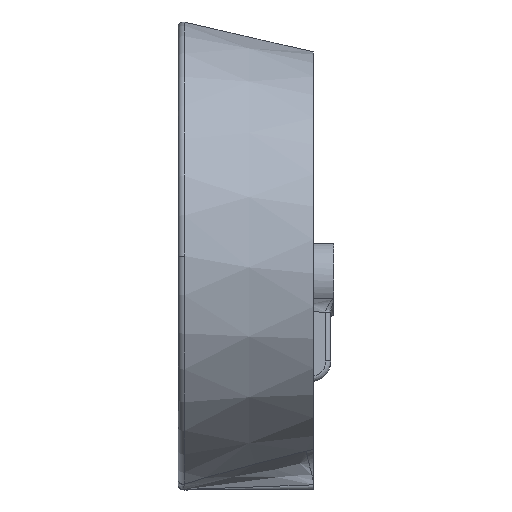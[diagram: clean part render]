
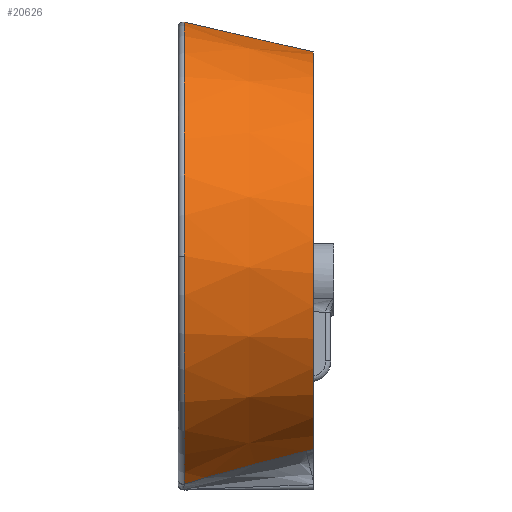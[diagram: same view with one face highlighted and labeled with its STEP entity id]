
A CAD part, left-side view. The second image highlights one B-rep face of the part: STEP entity #20626.
In plain terms, the highlighted conical face has half-angle 12.995 degrees and reference radius 195 mm.
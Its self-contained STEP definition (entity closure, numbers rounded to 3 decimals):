
#190 = VERTEX_POINT ( 'NONE', #762 ) ;
#762 = CARTESIAN_POINT ( 'NONE',  ( 174.795, -0.124, 42.715 ) ) ;
#943 = ORIENTED_EDGE ( 'NONE', *, *, #12248, .T. ) ;
#1110 = EDGE_CURVE ( 'NONE', #21804, #22819, #16035, .T. ) ;
#1172 = VECTOR ( 'NONE', #1820, 1000. ) ;
#1575 = CARTESIAN_POINT ( 'NONE',  ( 124.996, -1.257, -401.38 ) ) ;
#1645 = DIRECTION ( 'NONE',  ( 0., 0., -1. ) ) ;
#1740 = CARTESIAN_POINT ( 'NONE',  ( 117.224, -30.876, -392.389 ) ) ;
#1820 = DIRECTION ( 'NONE',  ( 0., 0.974, 0.225 ) ) ;
#1917 = CARTESIAN_POINT ( 'NONE',  ( 114.26, -52.874, -386.265 ) ) ;
#2081 = CARTESIAN_POINT ( 'NONE',  ( 116.072, -38.177, -390.32 ) ) ;
#2602 = ORIENTED_EDGE ( 'NONE', *, *, #1110, .T. ) ;
#2711 = DIRECTION ( 'NONE',  ( 1., 0., 0. ) ) ;
#2970 = DIRECTION ( 'NONE',  ( 0., 1., 0. ) ) ;
#3637 = CARTESIAN_POINT ( 'NONE',  ( 174.795, -0.124, -182.257 ) ) ;
#3923 = CIRCLE ( 'NONE', #19157, 196.385 ) ;
#4159 = CARTESIAN_POINT ( 'NONE',  ( 116.819, -33.304, -391.696 ) ) ;
#4199 = VERTEX_POINT ( 'NONE', #13144 ) ;
#4291 = CARTESIAN_POINT ( 'NONE',  ( 111.789, -117.157, -369.926 ) ) ;
#4322 = CARTESIAN_POINT ( 'NONE',  ( 113.382, -62.706, -383.631 ) ) ;
#4826 = CARTESIAN_POINT ( 'NONE',  ( 123.284, -5.872, -399.889 ) ) ;
#5019 = VERTEX_POINT ( 'NONE', #17531 ) ;
#6003 = VERTEX_POINT ( 'NONE', #33034 ) ;
#6527 = DIRECTION ( 'NONE',  ( 0., 0., -1. ) ) ;
#9602 = CARTESIAN_POINT ( 'NONE',  ( 121.452, -11.722, -398.058 ) ) ;
#11241 = CIRCLE ( 'NONE', #28685, 224.971 ) ;
#11504 = AXIS2_PLACEMENT_3D ( 'NONE', #28725, #2970, #18669 ) ;
#11856 = EDGE_LOOP ( 'NONE', ( #943, #20518, #2602, #28347, #21924, #26799 ) ) ;
#12159 = CARTESIAN_POINT ( 'NONE',  ( 111.762, -97.284, -374.752 ) ) ;
#12248 = EDGE_CURVE ( 'NONE', #190, #4199, #11241, .T. ) ;
#12321 = CARTESIAN_POINT ( 'NONE',  ( 111.789, -117.157, -369.926 ) ) ;
#13144 = CARTESIAN_POINT ( 'NONE',  ( -50.177, -0.124, -182.257 ) ) ;
#13700 = CARTESIAN_POINT ( 'NONE',  ( 125.478, -0.124, -401.756 ) ) ;
#13790 = EDGE_CURVE ( 'NONE', #22819, #6003, #27085, .T. ) ;
#14684 = CARTESIAN_POINT ( 'NONE',  ( 111.838, -121.719, -368.832 ) ) ;
#14783 = LINE ( 'NONE', #25197, #1172 ) ;
#14884 = CARTESIAN_POINT ( 'NONE',  ( 115.729, -40.623, -389.635 ) ) ;
#16035 = B_SPLINE_CURVE_WITH_KNOTS ( 'NONE', 3,
 ( #17285, #1575, #27520, #20018, #4826, #33438, #9602, #25460, #22738, #20351, #22407, #1740, #4159, #2081, #14884, #25297, #1917, #4322, #25122, #17623, #24960, #12159, #22584, #12321 ),
 .UNSPECIFIED., .F., .F.,
 ( 4, 2, 2, 2, 2, 2, 2, 2, 2, 2, 2, 4 ),
 ( 0., 0.004, 0.008, 0.016, 0.023, 0.031, 0.039, 0.046, 0.062, 0.077, 0.093, 0.124 ),
 .UNSPECIFIED. ) ;
#16764 = DIRECTION ( 'NONE',  ( 0., -1., 0. ) ) ;
#17285 = CARTESIAN_POINT ( 'NONE',  ( 125.478, -0.124, -401.756 ) ) ;
#17531 = CARTESIAN_POINT ( 'NONE',  ( 174.795, -124., 14.128 ) ) ;
#17623 = CARTESIAN_POINT ( 'NONE',  ( 112.454, -77.499, -379.769 ) ) ;
#18331 = FACE_OUTER_BOUND ( 'NONE', #11856, .T. ) ;
#18669 = DIRECTION ( 'NONE',  ( 0., 0., 1. ) ) ;
#19157 = AXIS2_PLACEMENT_3D ( 'NONE', #24205, #26080, #2711 ) ;
#19705 = CIRCLE ( 'NONE', #24061, 224.971 ) ;
#20018 = CARTESIAN_POINT ( 'NONE',  ( 123.687, -4.712, -400.26 ) ) ;
#20351 = CARTESIAN_POINT ( 'NONE',  ( 118.585, -23.633, -394.487 ) ) ;
#20518 = ORIENTED_EDGE ( 'NONE', *, *, #20918, .T. ) ;
#20626 = ADVANCED_FACE ( 'NONE', ( #18331 ), #20804, .T. ) ;
#20804 = CONICAL_SURFACE ( 'NONE', #11504, 195., 0.227 ) ;
#20918 = EDGE_CURVE ( 'NONE', #4199, #21804, #19705, .T. ) ;
#21492 = EDGE_CURVE ( 'NONE', #5019, #6003, #3923, .T. ) ;
#21777 = CARTESIAN_POINT ( 'NONE',  ( 111.789, -117.157, -369.926 ) ) ;
#21804 = VERTEX_POINT ( 'NONE', #13700 ) ;
#21924 = ORIENTED_EDGE ( 'NONE', *, *, #21492, .F. ) ;
#22407 = CARTESIAN_POINT ( 'NONE',  ( 118.107, -26.041, -393.784 ) ) ;
#22584 = CARTESIAN_POINT ( 'NONE',  ( 111.681, -107.209, -372.312 ) ) ;
#22738 = CARTESIAN_POINT ( 'NONE',  ( 119.631, -18.841, -395.903 ) ) ;
#22819 = VERTEX_POINT ( 'NONE', #21777 ) ;
#24061 = AXIS2_PLACEMENT_3D ( 'NONE', #30140, #25033, #1645 ) ;
#24205 = CARTESIAN_POINT ( 'NONE',  ( 174.795, -124., -182.257 ) ) ;
#24417 = CARTESIAN_POINT ( 'NONE',  ( 111.863, -124., -368.285 ) ) ;
#24960 = CARTESIAN_POINT ( 'NONE',  ( 112.237, -82.44, -378.503 ) ) ;
#25033 = DIRECTION ( 'NONE',  ( 0., -1., 0. ) ) ;
#25122 = CARTESIAN_POINT ( 'NONE',  ( 113.026, -67.632, -382.333 ) ) ;
#25197 = CARTESIAN_POINT ( 'NONE',  ( 174.795, -130., 12.743 ) ) ;
#25297 = CARTESIAN_POINT ( 'NONE',  ( 114.783, -47.967, -387.6 ) ) ;
#25460 = CARTESIAN_POINT ( 'NONE',  ( 120.199, -16.458, -396.617 ) ) ;
#26080 = DIRECTION ( 'NONE',  ( 0., -1., 0. ) ) ;
#26799 = ORIENTED_EDGE ( 'NONE', *, *, #30409, .T. ) ;
#27085 = B_SPLINE_CURVE_WITH_KNOTS ( 'NONE', 3,
 ( #4291, #30022, #14684, #24417 ),
 .UNSPECIFIED., .F., .F.,
 ( 4, 4 ),
 ( 0., 0.007 ),
 .UNSPECIFIED. ) ;
#27520 = CARTESIAN_POINT ( 'NONE',  ( 124.543, -2.404, -401.005 ) ) ;
#28347 = ORIENTED_EDGE ( 'NONE', *, *, #13790, .T. ) ;
#28685 = AXIS2_PLACEMENT_3D ( 'NONE', #3637, #16764, #6527 ) ;
#28725 = CARTESIAN_POINT ( 'NONE',  ( 174.795, -130., -182.257 ) ) ;
#30022 = CARTESIAN_POINT ( 'NONE',  ( 111.813, -119.438, -369.379 ) ) ;
#30140 = CARTESIAN_POINT ( 'NONE',  ( 174.795, -0.124, -182.257 ) ) ;
#30409 = EDGE_CURVE ( 'NONE', #5019, #190, #14783, .T. ) ;
#33034 = CARTESIAN_POINT ( 'NONE',  ( 111.863, -124., -368.285 ) ) ;
#33438 = CARTESIAN_POINT ( 'NONE',  ( 122.137, -9.369, -398.786 ) ) ;
